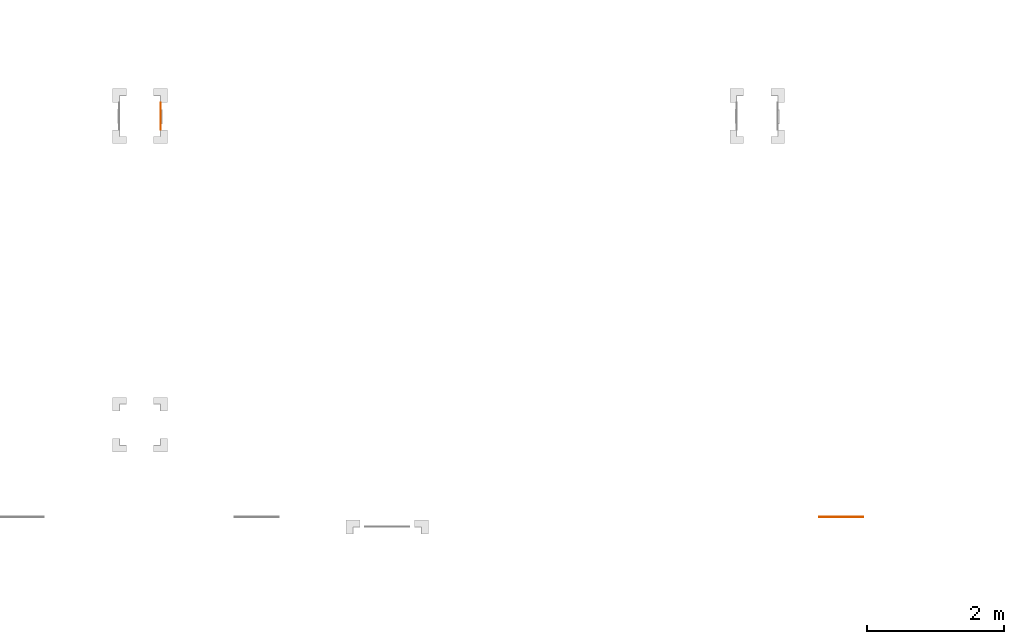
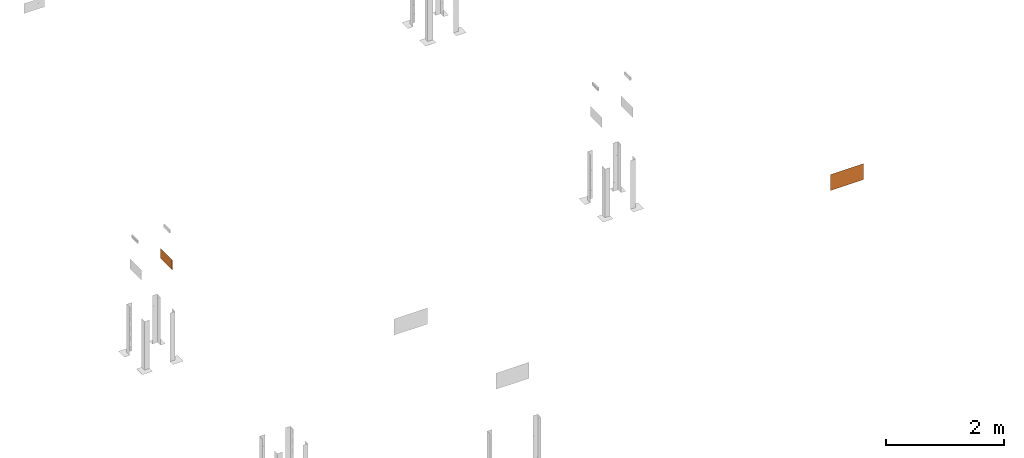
# One storey, part 81 of 119: 2 proxies.
"""IFC2X3 building model written with IfcOpenShell, lengths in metres."""

from ifc_helpers import new_model, entity, si_unit, converted_unit, derived_unit, direction, frame, frame_2d, origin, origin_2d_with_axis, place, context, subcontext, project, spatial, polyline, circle_curve, parameter, trimmed, segment, composite_curve, rectangle, outline, extrude, source, transform, mapped, material, material_list, type_object, type_shapes, element, save


model = new_model("IFC2X3")

# Units and contexts
model_context = context("Model", 3, precision=1e-05, world=origin(), true_north=direction((6.12303176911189e-17, 1.0)))
body_context = subcontext(model_context, "Body", "Model", "MODEL_VIEW")
ifc_project = project(units=[si_unit("LENGTHUNIT", "METRE"), si_unit("AREAUNIT", "SQUARE_METRE"), si_unit("VOLUMEUNIT", "CUBIC_METRE"), converted_unit("PLANEANGLEUNIT", "DEGREE", entity("IfcRatioMeasure", 0.0174532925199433), si_unit("PLANEANGLEUNIT", "RADIAN"), dimensions=[0, 0, 0, 0, 0, 0, 0]), si_unit("MASSUNIT", "GRAM", prefix="KILO"), derived_unit("MASSDENSITYUNIT", [(si_unit("MASSUNIT", "GRAM", prefix="KILO"), 1), (si_unit("LENGTHUNIT", "METRE"), -3)]), derived_unit("MOMENTOFINERTIAUNIT", [(si_unit("LENGTHUNIT", "METRE"), 4)]), si_unit("TIMEUNIT", "SECOND"), si_unit("FREQUENCYUNIT", "HERTZ"), si_unit("THERMODYNAMICTEMPERATUREUNIT", "DEGREE_CELSIUS"), derived_unit("THERMALTRANSMITTANCEUNIT", [(si_unit("MASSUNIT", "GRAM", prefix="KILO"), 1), (si_unit("THERMODYNAMICTEMPERATUREUNIT", "KELVIN"), -1), (si_unit("TIMEUNIT", "SECOND"), -3)]), derived_unit("VOLUMETRICFLOWRATEUNIT", [(si_unit("LENGTHUNIT", "METRE"), 3), (si_unit("TIMEUNIT", "SECOND"), -1)]), si_unit("ELECTRICCURRENTUNIT", "AMPERE"), si_unit("ELECTRICVOLTAGEUNIT", "VOLT"), si_unit("POWERUNIT", "WATT"), si_unit("FORCEUNIT", "NEWTON", prefix="KILO"), si_unit("ILLUMINANCEUNIT", "LUX"), si_unit("LUMINOUSFLUXUNIT", "LUMEN"), si_unit("LUMINOUSINTENSITYUNIT", "CANDELA"), derived_unit("USERDEFINED", [(si_unit("MASSUNIT", "GRAM", prefix="KILO"), -1), (si_unit("LENGTHUNIT", "METRE"), -2), (si_unit("TIMEUNIT", "SECOND"), 3), (si_unit("LUMINOUSFLUXUNIT", "LUMEN"), 1)]), derived_unit("LINEARVELOCITYUNIT", [(si_unit("LENGTHUNIT", "METRE"), 1), (si_unit("TIMEUNIT", "SECOND"), -1)]), si_unit("PRESSUREUNIT", "PASCAL"), derived_unit("USERDEFINED", [(si_unit("LENGTHUNIT", "METRE"), -2), (si_unit("MASSUNIT", "GRAM", prefix="KILO"), 1), (si_unit("TIMEUNIT", "SECOND"), -2)]), derived_unit("LINEARFORCEUNIT", [(si_unit("MASSUNIT", "GRAM", prefix="KILO"), 1), (si_unit("LENGTHUNIT", "METRE"), 1), (si_unit("TIMEUNIT", "SECOND"), -2), (si_unit("LENGTHUNIT", "METRE"), -1)]), derived_unit("PLANARFORCEUNIT", [(si_unit("MASSUNIT", "GRAM", prefix="KILO"), 1), (si_unit("LENGTHUNIT", "METRE"), 1), (si_unit("TIMEUNIT", "SECOND"), -2), (si_unit("LENGTHUNIT", "METRE"), -2)])], contexts=[model_context])

# Site, building, storey
site_placement = place(None, origin())
site = spatial("IfcSite", under=ifc_project, at=site_placement, Name="Default", CompositionType="ELEMENT")
building_placement = place(site_placement, origin())
building = spatial("IfcBuilding", under=site, at=building_placement, CompositionType="ELEMENT")
storey_placement = place(building_placement, origin())
storey = spatial("IfcBuildingStorey", under=building, at=storey_placement, Name="PAV. 01 - TÉRREO", CompositionType="ELEMENT", Elevation=0.0)

# Proxies
ifc_material_1 = material(Name="Plastico branco")
ifc_material_2 = material(Name="Plastico Verde")
ifc_material_list_1 = material_list([ifc_material_1, ifc_material_2])
building_element_proxy_type_1 = type_object("IfcBuildingElementProxyType", Name="Sinalização de orientação - S02 - Indicação do sentido da saída de emergência esquerda:Distância 12m", PredefinedType="NOTDEFINED", material=ifc_material_1)
shared_shape_1 = source(origin(), body_context, "Body", "SweptSolid", [
    extrude(outline(polyline([(-0.0269307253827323, -0.024231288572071), (-0.0259628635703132, -0.024231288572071), (-0.0248498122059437, -0.0234083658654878), (-0.0236286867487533, -0.0219305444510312), (-0.0223366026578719, -0.0199658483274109), (-0.0210106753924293, -0.0176823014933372), (-0.0159905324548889, -0.00832626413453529), (-0.0136800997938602, -0.00426313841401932), (-0.0125256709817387, -0.00238736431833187), (-0.0113513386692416, -0.000610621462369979), (-0.0101417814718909, 0.0010707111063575), (-0.00888166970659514, 0.00266026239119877), (-0.00754048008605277, 0.00417640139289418), (-0.00604105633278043, 0.00568273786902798), (-0.00429732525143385, 0.00725153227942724), (-0.00222321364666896, 0.00895504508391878), (0.000267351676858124, 0.010865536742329), (0.0161156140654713, 0.0220225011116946), (0.00541084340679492, 0.027666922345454), (0.004563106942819, 0.0280964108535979), (0.00398677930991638, 0.0283743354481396), (0.00361343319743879, 0.0285356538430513), (0.00337464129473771, 0.0286153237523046), (0.0032019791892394, 0.0286482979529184), (0.00303386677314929, 0.0286578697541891), (0.00283021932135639, 0.0286307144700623), (0.00255516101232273, 0.02854633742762), (0.00217281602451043, 0.0283842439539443), (0.00164730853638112, 0.0281239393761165), (0.000942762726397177, 0.0277449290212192), (-0.0154440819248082, 0.0179800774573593), (-0.0169906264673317, 0.0173662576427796), (-0.0184263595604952, 0.0170104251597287), (-0.0197467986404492, 0.0168906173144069), (-0.0209474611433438, 0.0169848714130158), (-0.0220238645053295, 0.017271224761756), (-0.0229715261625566, 0.0177277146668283), (-0.0237859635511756, 0.0183323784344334), (-0.0244626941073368, 0.0190632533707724), (-0.0249972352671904, 0.0198983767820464), (-0.025385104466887, 0.0208157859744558), (-0.0256218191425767, 0.0217935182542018), (-0.02570289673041, 0.0228096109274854), (-0.0256238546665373, 0.023842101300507), (-0.0253802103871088, 0.024869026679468), (-0.024967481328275, 0.0258684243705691), (-0.0243811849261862, 0.026818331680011), (-0.0236168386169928, 0.0276967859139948), (-0.022669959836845, 0.0284818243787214), (-0.012358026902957, 0.0349145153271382), (-0.0056365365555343, 0.0389186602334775), (-0.00143098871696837, 0.0410123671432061), (0.00133311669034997, 0.0417137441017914), (0.00371952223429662, 0.0415365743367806), (0.00635115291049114, 0.0408174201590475), (0.00926485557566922, 0.0396572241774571), (0.0124569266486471, 0.0381406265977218), (0.0382522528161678, 0.0245317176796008), (0.0409647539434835, 0.0230291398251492), (0.0432264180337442, 0.021505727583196), (0.0450948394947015, 0.0197223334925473), (0.0466276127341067, 0.0174398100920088), (0.0478823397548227, 0.0144190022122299), (0.0489477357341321, 0.0103891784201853), (0.0500145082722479, 0.00497609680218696), (0.0529984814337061, -0.0115815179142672), (0.0687826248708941, -0.0199385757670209), (0.101976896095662, 0.0427561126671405), (0.00232291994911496, 0.0955188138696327), (-0.0513007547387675, -0.00576130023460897), (-0.0561261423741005, -0.00320645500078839), (-0.0853051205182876, -0.0156605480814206), (-0.0628396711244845, -0.0275550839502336), (-0.0734521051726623, -0.0475990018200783), (-0.0904241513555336, -0.0529832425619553), (-0.0204118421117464, -0.0900518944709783), (-0.00292720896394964, -0.0849390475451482), (0.0122206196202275, -0.0929592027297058), (-0.00693758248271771, -0.0971859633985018), (0.00953030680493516, -0.105905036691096), (0.0262018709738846, -0.100361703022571), (0.0628213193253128, -0.0311978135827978), (0.0451218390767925, -0.0218302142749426), (0.0436304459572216, -0.0209809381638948), (0.0424868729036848, -0.020192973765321), (0.041614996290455, -0.0193663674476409), (0.0409386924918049, -0.0184011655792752), (0.0403818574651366, -0.0171974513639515), (0.0398810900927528, -0.0156792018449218), (0.0394075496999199, -0.0138354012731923), (0.0389382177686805, -0.0116659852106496), (0.0366426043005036, 0.000269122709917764), (0.0172569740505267, -0.0138624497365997), (0.0147941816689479, -0.0880984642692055), (-0.000353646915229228, -0.0800783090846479), (-0.000324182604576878, -0.0142849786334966), (-0.0124368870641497, -0.0319051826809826), (-0.0138384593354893, -0.0341119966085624), (-0.0151491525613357, -0.0360250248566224), (-0.0164165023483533, -0.0376353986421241), (-0.0176880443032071, -0.0389342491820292), (-0.0190113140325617, -0.0399127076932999), (-0.0204338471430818, -0.0405619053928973), (-0.0220031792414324, -0.0408729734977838), (-0.0237668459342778, -0.0408370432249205), (-0.025772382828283, -0.0404452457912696), (-0.0280673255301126, -0.0396887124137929), (-0.0306992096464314, -0.0385585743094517), (-0.0337155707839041, -0.0370459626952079), (-0.0714172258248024, -0.0170844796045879), (-0.0536029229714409, -0.0101094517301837), (-0.0269307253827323, -0.024231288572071)]), holes=[composite_curve([segment(trimmed(circle_curve(frame_2d((0.0517161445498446, 0.0359195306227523), x_axis=(0.883770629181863, -0.46792037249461)), 0.0134), [parameter(180.0)], [parameter(360.0)], True, "PARAMETER"), False, "CONTINUOUS"), segment(trimmed(circle_curve(frame_2d((0.0517161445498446, 0.0359195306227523), x_axis=(0.883770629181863, -0.46792037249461)), 0.0134), [parameter(2.03555499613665e-13)], [parameter(180.0)], True, "PARAMETER"), False, "CONTINUOUS")], self_intersect=False)]), frame((0.112957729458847, -0.00110000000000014, 1.90431633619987), z_axis=(0.0, 1.0, 0.0), x_axis=(-0.883770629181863, 0.0, 0.46792037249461)), (0.0, 0.0, 1.0), 0.0011),
    extrude(outline(polyline([(-0.197500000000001, -0.102500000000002), (0.197500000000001, -0.102500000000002), (0.197500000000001, 0.102500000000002), (-0.197500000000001, 0.102500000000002), (-0.197500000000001, -0.102500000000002)]), holes=[polyline([(-0.190000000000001, -0.0950000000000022), (-0.190000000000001, 0.0949999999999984), (0.189999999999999, 0.0949999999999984), (0.189999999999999, -0.0950000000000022), (-0.190000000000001, -0.0950000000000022)])]), frame((0.0, -0.0011, 1.9025), z_axis=(0.0, 1.0, 0.0), x_axis=(1.0, 0.0, 0.0)), (0.0, 0.0, 1.0), 0.0011),
    extrude(rectangle(XDim=0.38, YDim=0.001, at=origin_2d_with_axis()), frame((0.0, -0.0005, 1.8075)), (0.0, 0.0, 1.0), 0.190000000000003),
    extrude(outline(polyline([(-0.0341511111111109, -0.0575999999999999), (0.016628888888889, -0.0575999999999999), (-0.0218311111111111, -0.0191399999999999), (0.0852288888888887, -0.0191399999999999), (0.0852288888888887, 0.0191400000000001), (-0.0218311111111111, 0.0191400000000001), (0.016628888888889, 0.0576000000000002), (-0.0341511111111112, 0.0576000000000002), (-0.0917511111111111, 0.0), (-0.0341511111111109, -0.0575999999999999)])), frame((-0.0852288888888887, -0.0011, 1.9025), z_axis=(0.0, 1.0, 0.0), x_axis=(1.0, 0.0, 0.0)), (0.0, 0.0, 1.0), 0.0011),
])
type_shapes(building_element_proxy_type_1, [shared_shape_1])
proxy_1_placement = place(storey_placement, frame((57.4738110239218, 0.425057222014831, 0.0), z_axis=(0.0, 0.0, 1.0), x_axis=(0.0, 1.0, 0.0)))
element("IfcBuildingElementProxy", 1, at=proxy_1_placement, inside=storey, type_object=building_element_proxy_type_1, material=ifc_material_list_1, Name="Sinalização de orientação - S02 - Indicação do sentido da saída de emergência esquerda:Distância 12m", ObjectType="Sinalização de orientação - S02 - Indicação do sentido da saída de emergência esquerda:Distância 12m", context=body_context, shape_type="MappedRepresentation", body=[
    mapped(shared_shape_1, transform((0.0, 0.0, 0.0), scale=1.0)),
])
ifc_material_list_2 = material_list([ifc_material_1, ifc_material_2])
building_element_proxy_type_2 = type_object("IfcBuildingElementProxyType", Name="Sinalização de orientação - S12 - Saída de emergência:Distância 20m", PredefinedType="NOTDEFINED", material=ifc_material_1)
shared_shape_2 = source(origin(), body_context, "Body", "SweptSolid", [
    extrude(outline(polyline([(0.0376954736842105, -0.0454956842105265), (0.0705927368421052, -0.0454956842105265), (0.0183030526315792, 0.105552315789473), (-0.0183529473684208, 0.105552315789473), (-0.0714076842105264, -0.0454956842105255), (-0.0368472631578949, -0.0454956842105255), (-0.027200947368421, -0.0145609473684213), (0.0272175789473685, -0.0145609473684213), (0.0376954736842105, -0.0454956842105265)]), holes=[polyline([(-0.0183529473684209, 0.0115506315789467), (0.000141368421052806, 0.0715241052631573), (0.0183030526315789, 0.0115506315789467), (-0.0183529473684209, 0.0115506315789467)])]), frame((0.227960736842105, -0.0011, 3.63618684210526), z_axis=(0.0, 1.0, 0.0), x_axis=(-1.0, 0.0, 0.0)), (0.0, 0.0, 1.0), 0.0011),
    extrude(outline(polyline([(0.00169642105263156, -0.0153010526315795), (0.0223528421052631, -0.0153010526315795), (0.00329305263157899, 0.0153010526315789), (-0.0273423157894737, 0.0153010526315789), (0.00169642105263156, -0.0153010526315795)])), frame((0.0069519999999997, -0.0011, 3.77250757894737), z_axis=(0.0, 1.0, 0.0), x_axis=(-1.0, 0.0, 0.0)), (0.0, 0.0, 1.0), 0.0011),
    extrude(rectangle(XDim=0.0011, YDim=0.030968, at=origin_2d_with_axis()), frame((-0.00367557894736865, -0.00055, 3.59069115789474), z_axis=(0.0, 0.0, 1.0), x_axis=(0.0, 1.0, 0.0)), (0.0, 0.0, 1.0), 0.151048),
    extrude(outline(polyline([(0.0376247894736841, -0.0454956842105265), (0.0704887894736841, -0.0454956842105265), (0.0182323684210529, 0.105552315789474), (-0.0184568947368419, 0.105552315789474), (-0.0707798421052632, -0.0454956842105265), (-0.0369512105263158, -0.0454956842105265), (-0.0273048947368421, -0.0145609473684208), (0.0271468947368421, -0.0145609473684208), (0.0376247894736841, -0.0454956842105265)]), holes=[polyline([(-0.018456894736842, 0.0115506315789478), (3.74210526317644e-05, 0.0715241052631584), (0.0182323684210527, 0.0115506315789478), (-0.018456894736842, 0.0115506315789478)])]), frame((-0.101049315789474, -0.0011, 3.63618684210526), z_axis=(0.0, 1.0, 0.0), x_axis=(-1.0, 0.0, 0.0)), (0.0, 0.0, 1.0), 0.0011),
    extrude(outline(polyline([(-0.0987312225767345, -0.0692916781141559), (-0.0390903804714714, -0.0692916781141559), (-0.0259090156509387, -0.0690015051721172), (-0.015711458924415, -0.0679295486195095), (-0.00762154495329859, -0.0657736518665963), (-0.000763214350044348, -0.062231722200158), (0.00552600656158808, -0.0571304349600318), (0.0112471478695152, -0.0506952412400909), (0.0162735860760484, -0.0432285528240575), (0.0204786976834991, -0.0350327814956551), (0.0237358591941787, -0.0264103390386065), (0.0259649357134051, -0.0176406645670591), (0.0272763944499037, -0.00890900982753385), (0.0278295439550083, -0.000376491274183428), (0.0277836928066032, 0.00779577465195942), (0.0272981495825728, 0.0154466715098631), (0.0265127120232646, 0.0224446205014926), (0.0253600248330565, 0.0289716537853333), (0.0236478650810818, 0.0353988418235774), (0.0211822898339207, 0.0420998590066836), (0.017769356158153, 0.0494483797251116), (0.0131642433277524, 0.0577443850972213), (0.00648808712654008, 0.0663694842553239), (-0.00356821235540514, 0.0740821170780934), (-0.0183219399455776, 0.0796288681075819), (-0.0390903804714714, 0.0817563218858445), (-0.0987312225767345, 0.0817563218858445), (-0.0987312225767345, -0.0692916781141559)]), holes=[polyline([(-0.0677299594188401, 0.0556447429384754), (-0.0390903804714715, 0.0556447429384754), (-0.0307359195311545, 0.0546713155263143), (-0.0238840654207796, 0.0520574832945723), (-0.0183755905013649, 0.0482629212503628), (-0.0140512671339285, 0.0437473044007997), (-0.0107521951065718, 0.0389334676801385), (-0.00832187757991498, 0.033973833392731), (-0.0066048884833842, 0.0289003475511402), (-0.00544580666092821, 0.0237444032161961), (-0.00468921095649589, 0.0185373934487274), (-0.00418569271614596, 0.0133093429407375), (-0.00388873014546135, 0.00806686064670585), (-0.00383818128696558, 0.00279689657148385), (-0.00407658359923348, -0.00251420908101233), (-0.00464647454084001, -0.00788011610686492), (-0.00559039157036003, -0.0133144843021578), (-0.00695529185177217, -0.0188075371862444), (-0.00881691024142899, -0.0241968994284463), (-0.0112625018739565, -0.0292591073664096), (-0.0143793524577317, -0.0337705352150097), (-0.0182547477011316, -0.037507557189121), (-0.0229507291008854, -0.0402659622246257), (-0.0282499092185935, -0.0420564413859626), (-0.0337610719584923, -0.0430233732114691), (-0.0390903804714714, -0.0433131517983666), (-0.0677299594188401, -0.0433131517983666), (-0.0677299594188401, 0.0556447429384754)])]), frame((0.133025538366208, -0.0011, 3.67244747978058), z_axis=(0.0, 1.0, 0.0), x_axis=(1.0, 0.0, 0.0)), (0.0, 0.0, 1.0), 0.0011),
    extrude(outline(polyline([(-0.0574831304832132, 0.0312104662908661), (-0.0278789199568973, 0.0312104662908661), (-0.0266149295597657, 0.036124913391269), (-0.0251060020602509, 0.040204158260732), (-0.0233574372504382, 0.043538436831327), (-0.0213745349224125, 0.0462179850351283), (-0.0191625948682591, 0.048333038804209), (-0.0167269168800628, 0.0499738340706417), (-0.0140728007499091, 0.0512306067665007), (-0.0112055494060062, 0.0521935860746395), (-0.00813940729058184, 0.0529337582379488), (-0.00491714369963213, 0.0534607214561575), (-0.00158720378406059, 0.0537718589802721), (0.00180196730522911, 0.0538645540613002), (0.00520192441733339, 0.0537361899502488), (0.00856422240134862, 0.0533841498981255), (0.0118404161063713, 0.0528058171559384), (0.0149820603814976, 0.0519985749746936), (0.0179380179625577, 0.0509495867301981), (0.0206451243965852, 0.0496003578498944), (0.0230368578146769, 0.0478796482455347), (0.0250466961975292, 0.0457162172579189), (0.0266081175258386, 0.043038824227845), (0.027654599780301, 0.039776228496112), (0.0281196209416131, 0.0358571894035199), (0.027936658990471, 0.0312104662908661), (0.0270808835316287, 0.0286066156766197), (0.0255323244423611, 0.0263499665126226), (0.0233445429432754, 0.0243963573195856), (0.020571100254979, 0.0227016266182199), (0.0172655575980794, 0.0212216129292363), (0.0134814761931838, 0.0199121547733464), (0.00927241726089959, 0.0187290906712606), (0.00469194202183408, 0.0176282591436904), (-0.0162655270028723, 0.0131619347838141), (-0.021854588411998, 0.0117970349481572), (-0.0274211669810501, 0.0102287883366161), (-0.0328768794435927, 0.00840313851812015), (-0.0381333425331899, 0.00626602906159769), (-0.0431021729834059, 0.00376340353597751), (-0.047694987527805, 0.000841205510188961), (-0.051823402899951, -0.00255462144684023), (-0.0553990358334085, -0.00647813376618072), (-0.0583335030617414, -0.0109833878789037), (-0.0605384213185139, -0.0161244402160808), (-0.0619254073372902, -0.0219553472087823), (-0.0624060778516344, -0.0285301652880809), (-0.0614580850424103, -0.0401353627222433), (-0.0587034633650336, -0.050021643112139), (-0.0542724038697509, -0.0582833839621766), (-0.048295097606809, -0.0650149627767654), (-0.0409017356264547, -0.0703107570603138), (-0.0322225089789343, -0.0742651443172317), (-0.0223876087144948, -0.0769725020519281), (-0.0115272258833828, -0.0785272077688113), (0.00022844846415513, -0.0790236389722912), (0.0105685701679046, -0.0784476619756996), (0.0204533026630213, -0.0766900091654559), (0.0296795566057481, -0.0737177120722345), (0.0380442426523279, -0.0694978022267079), (0.0453442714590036, -0.0639973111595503), (0.0513765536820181, -0.0571832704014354), (0.0559379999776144, -0.0490227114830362), (0.0588255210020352, -0.0394826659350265), (0.0598360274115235, -0.0285301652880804), (0.0296663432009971, -0.0285301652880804), (0.0292112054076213, -0.0336041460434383), (0.0279224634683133, -0.0379372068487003), (0.0259151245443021, -0.0415888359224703), (0.023304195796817, -0.0446185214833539), (0.0202046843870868, -0.047085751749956), (0.0167315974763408, -0.0490500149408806), (0.0129999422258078, -0.0505707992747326), (0.00912472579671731, -0.0517075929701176), (0.00521918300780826, -0.0525188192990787), (0.00135318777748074, -0.0530368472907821), (-0.00244824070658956, -0.0532670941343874), (-0.00616215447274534, -0.053213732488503), (-0.00976560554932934, -0.0528809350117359), (-0.0132356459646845, -0.0522728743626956), (-0.0165493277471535, -0.0513937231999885), (-0.0196837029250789, -0.0502476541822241), (-0.0226158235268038, -0.0488388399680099), (-0.0253148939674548, -0.0471644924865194), (-0.0277033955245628, -0.0451803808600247), (-0.029686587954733, -0.0428269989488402), (-0.0311697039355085, -0.0400448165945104), (-0.0320579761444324, -0.036774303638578), (-0.0322566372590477, -0.0329559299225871), (-0.0316709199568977, -0.0285301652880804), (-0.0303724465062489, -0.0255638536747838), (-0.0278577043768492, -0.0229636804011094), (-0.0243560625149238, -0.02069431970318), (-0.0200968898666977, -0.0187204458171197), (-0.0153095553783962, -0.0170067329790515), (-0.0102234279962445, -0.0155178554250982), (-0.00506787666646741, -0.014218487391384), (0.0142120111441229, -0.010006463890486), (0.0187157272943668, -0.00893032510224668), (0.0231174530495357, -0.0077357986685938), (0.0274294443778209, -0.00636831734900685), (0.031663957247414, -0.00477331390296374), (0.0358332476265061, -0.00289622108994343), (0.0399331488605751, -0.000678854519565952), (0.0438729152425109, 0.00195603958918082), (0.047533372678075, 0.00509197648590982), (0.0507953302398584, 0.00881247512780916), (0.0535395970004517, 0.0132010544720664), (0.0556469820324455, 0.0183412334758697), (0.0569982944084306, 0.024316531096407), (0.0574743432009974, 0.0312104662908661), (0.0568973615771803, 0.0401466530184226), (0.0551054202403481, 0.048505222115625), (0.0519995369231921, 0.0561595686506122), (0.0474807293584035, 0.0629830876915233), (0.0414500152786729, 0.0688491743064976), (0.0338084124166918, 0.0736312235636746), (0.024456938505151, 0.0772026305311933), (0.013296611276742, 0.0794367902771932), (0.0002284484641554, 0.0802070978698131), (-0.0142842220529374, 0.0789872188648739), (-0.0269292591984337, 0.075473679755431), (-0.0375736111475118, 0.0698867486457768), (-0.0460842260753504, 0.0624466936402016), (-0.0523280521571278, 0.0533737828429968), (-0.0561720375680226, 0.0428882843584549), (-0.0574831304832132, 0.0312104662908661)])), frame((-0.239532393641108, -0.0011, 3.66565669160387), z_axis=(0.0, 1.0, 0.0), x_axis=(-1.0, 0.0, 0.0)), (0.0, 0.0, 1.0), 0.0011),
    extrude(rectangle(XDim=0.001, YDim=0.632, at=origin_2d_with_axis()), frame((0.0, -0.0005, 3.5075), z_axis=(0.0, 0.0, 1.0), x_axis=(0.0, 1.0, 0.0)), (0.0, 0.0, 1.0), 0.316000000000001),
    extrude(outline(polyline([(-0.165500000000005, -0.323499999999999), (0.165500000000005, -0.323499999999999), (0.165500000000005, 0.323499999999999), (-0.165500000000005, 0.323499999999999), (-0.165500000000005, -0.323499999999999)]), holes=[polyline([(-0.157999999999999, -0.315999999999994), (-0.157999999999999, 0.316000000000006), (0.158000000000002, 0.316000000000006), (0.158000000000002, -0.315999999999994), (-0.157999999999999, -0.315999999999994)])]), frame((0.0, -0.001, 3.66550000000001), z_axis=(0.0, 1.0, 0.0), x_axis=(0.0, 0.0, -1.0)), (0.0, 0.0, 1.0), 0.001),
])
type_shapes(building_element_proxy_type_2, [shared_shape_2])
proxy_2_placement = place(storey_placement, frame((67.3987976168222, -5.41661806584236, 0.0), z_axis=(0.0, 0.0, 1.0), x_axis=(-1.0, 0.0, 0.0)))
element("IfcBuildingElementProxy", 2, at=proxy_2_placement, inside=storey, type_object=building_element_proxy_type_2, material=ifc_material_list_2, Name="Sinalização de orientação - S12 - Saída de emergência:Distância 20m", ObjectType="Sinalização de orientação - S12 - Saída de emergência:Distância 20m", context=body_context, shape_type="MappedRepresentation", body=[
    mapped(shared_shape_2, transform((0.0, 0.0, 0.0), scale=1.0)),
])

save(model, "model.ifc")
